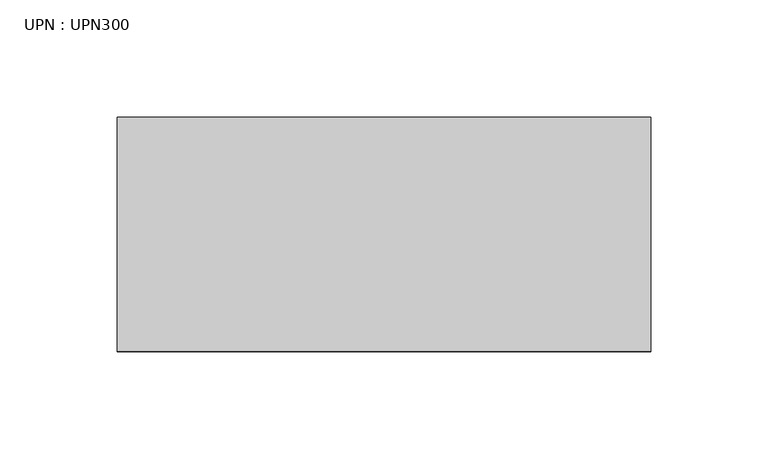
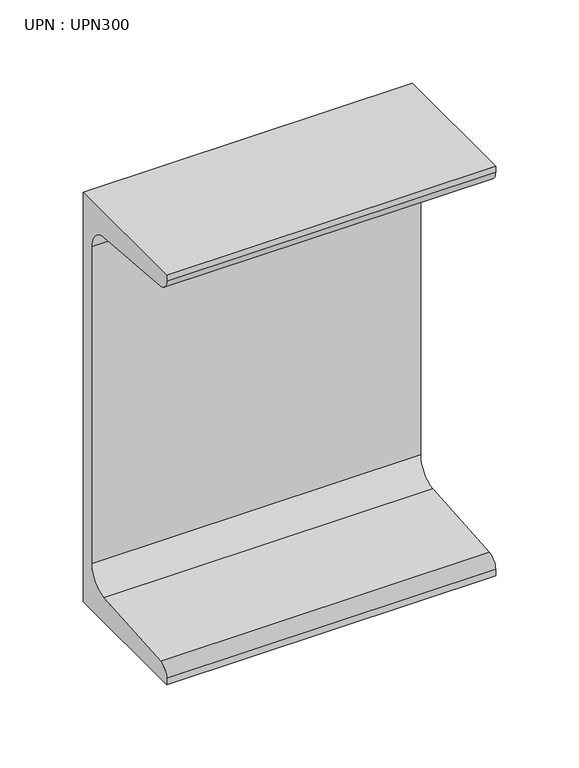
"""IFC4 building model written with IfcOpenShell, lengths in millimetres: beam geometry, UPN : UPN300."""

from ifc_helpers import new_model, si_unit, point, frame, frame_2d, origin, place, context, project, spatial, polyline, circle_curve, trimmed, segment, composite_curve, outline, extrude, source, transform, mapped, element, save


def upn_upn300_3d9be292(model_context):
    return source(origin(), model_context, "Body", "SweptSolid", [
        extrude(outline(composite_curve([segment(polyline([(27.0, 150.0), (27.0, -150.0), (-73.0, -150.0), (-73.0, -145.3826224)]), True, "CONTINUOUS"), segment(trimmed(circle_curve(frame_2d((-65.0, -145.3826224)), 8.0), [point((-73.0, -145.3826224))], [point((-65.637416, -137.4080566))], False, "CARTESIAN"), True, "CONTINUOUS"), segment(polyline([(-65.637416, -137.4080566), (2.274832, -131.9797543)]), True, "CONTINUOUS"), segment(trimmed(circle_curve(frame_2d((1.0, -116.0306225)), 16.0), [point((2.274832, -131.9797543))], [point((17.0, -116.0306225))], True, "CARTESIAN"), True, "CONTINUOUS"), segment(polyline([(17.0, -116.0306225), (17.0, 116.0306225)]), True, "CONTINUOUS"), segment(trimmed(circle_curve(frame_2d((1.0, 116.0306225)), 16.0), [point((17.0, 116.0306225))], [point((2.274832, 131.9797543))], True, "CARTESIAN"), True, "CONTINUOUS"), segment(polyline([(2.274832, 131.9797543), (-65.637416, 137.4080566)]), True, "CONTINUOUS"), segment(trimmed(circle_curve(frame_2d((-65.0, 145.3826224)), 8.0), [point((-65.637416, 137.4080566))], [point((-73.0, 145.3826224))], False, "CARTESIAN"), True, "CONTINUOUS"), segment(polyline([(-73.0, 145.3826224), (-73.0, 150.0), (27.0, 150.0)]), True, "CONTINUOUS")], self_intersect=False)), frame((-113.9, 0.0, 0.0), z_axis=(1.0, 0.0, 0.0), x_axis=(0.0, 1.0, 0.0)), (0.0, 0.0, 1.0), 227.8),
    ])


if __name__ == "__main__":
    model = new_model("IFC4")
    model_context = context("Model", 3, world=origin())
    ifc_project = project(units=[si_unit("LENGTHUNIT", "METRE", prefix="MILLI")], contexts=[model_context])
    site = spatial("IfcSite", under=ifc_project)
    building = spatial("IfcBuilding", under=site)
    placement = place(None, origin())
    upn_upn300_shape = upn_upn300_3d9be292(model_context)
    element("IfcBeam", 1, ObjectType="UPN : UPN300", at=placement, inside=building, context=model_context, shape_type="MappedRepresentation", body=[
        mapped(upn_upn300_shape, transform((0.0, 0.0, 0.0), x_axis=(1.0, 0.0, 0.0), y_axis=(0.0, 1.0, 0.0), z_axis=(0.0, 0.0, 1.0))),
    ])
    save(model, "model.ifc")
